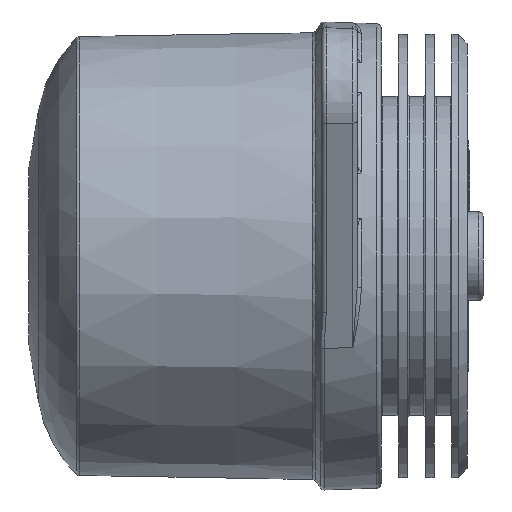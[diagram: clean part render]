
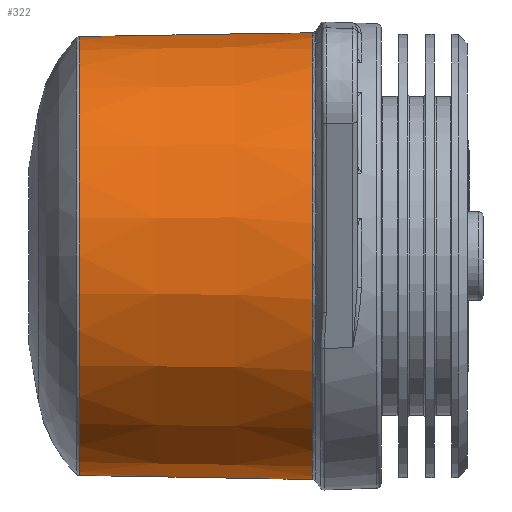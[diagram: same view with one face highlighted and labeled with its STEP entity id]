
A CAD part, front view. The second image highlights one B-rep face of the part: STEP entity #322.
In plain terms, the highlighted conical face has half-angle 1 degrees and reference radius 25 mm.
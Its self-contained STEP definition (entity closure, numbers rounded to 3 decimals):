
#300=CONICAL_SURFACE('',#2669,25.,1.);
#322=ADVANCED_FACE('',(#840,#841),#300,.T.);
#747=B_SPLINE_CURVE_WITH_KNOTS('',3,(#3972,#3973,#3974,#3975,#3976,#3977,
#3978,#3979,#3980,#3981,#3982,#3983,#3984,#3985,#3986,#3987,#3988,#3989,
#3990,#3991,#3992,#3993,#3994,#3995,#3996,#3997,#3998,#3999,#4000,#4001,
#4002,#4003,#4004,#4005,#4006,#4007,#4008,#4009,#4010,#4011,#4012,#4013,
#4014,#4015,#4016,#4017,#4018,#4019,#4020,#4021,#4022,#4023,#4024,#4025,
#4026,#4027,#4028,#4029,#4030,#4031,#4032,#4033,#4034,#4035,#4036,#4037,
#4038,#4039,#4040,#4041,#4042,#4043,#4044,#4045,#4046,#4047,#4048,#4049,
#4050,#4051,#4052,#4053,#4054,#4055,#4056,#4057,#4058),.UNSPECIFIED.,.F.,
 .F.,(4,2,2,2,2,2,2,2,2,1,1,2,2,2,2,2,2,2,2,2,2,2,2,2,2,2,2,2,1,2,2,2,2,
2,2,2,2,2,2,2,2,2,2,2,4),(0.,0.062,0.094,0.109,
0.117,0.125,0.187,0.219,
0.234,0.242,0.246,0.248,
0.25,0.258,0.262,0.266,
0.273,0.277,0.281,0.297,
0.305,0.309,0.311,0.312,
0.375,0.437,0.469,0.484,
0.492,0.496,0.5,0.562,
0.594,0.609,0.617,0.625,
0.687,0.719,0.734,0.75,
0.812,0.844,0.859,0.875,
1.),.UNSPECIFIED.);
#748=B_SPLINE_CURVE_WITH_KNOTS('',3,(#4061,#4062,#4063,#4064,#4065,#4066),
 .UNSPECIFIED.,.F.,.F.,(4,2,4),(0.,0.5,1.),.UNSPECIFIED.);
#749=B_SPLINE_CURVE_WITH_KNOTS('',3,(#4070,#4071,#4072,#4073,#4074,#4075),
 .UNSPECIFIED.,.F.,.F.,(4,2,4),(0.,0.5,1.),.UNSPECIFIED.);
#840=FACE_BOUND('',#944,.T.);
#841=FACE_BOUND('',#945,.T.);
#944=EDGE_LOOP('',(#1243));
#945=EDGE_LOOP('',(#1244,#1245,#1246,#1247));
#1243=ORIENTED_EDGE('',*,*,#2185,.T.);
#1244=ORIENTED_EDGE('',*,*,#2186,.T.);
#1245=ORIENTED_EDGE('',*,*,#2187,.T.);
#1246=ORIENTED_EDGE('',*,*,#2188,.T.);
#1247=ORIENTED_EDGE('',*,*,#2189,.T.);
#1951=VERTEX_POINT('',#3971);
#1952=VERTEX_POINT('',#4059);
#1953=VERTEX_POINT('',#4060);
#1954=VERTEX_POINT('',#4067);
#1955=VERTEX_POINT('',#4069);
#2185=EDGE_CURVE('',#1951,#1951,#2502,.T.);
#2186=EDGE_CURVE('',#1952,#1953,#747,.T.);
#2187=EDGE_CURVE('',#1953,#1954,#748,.T.);
#2188=EDGE_CURVE('',#1954,#1955,#2503,.T.);
#2189=EDGE_CURVE('',#1955,#1952,#749,.T.);
#2502=CIRCLE('',#2667,24.741);
#2503=CIRCLE('',#2668,25.2);
#2667=AXIS2_PLACEMENT_3D('',#3970,#3013,#3014);
#2668=AXIS2_PLACEMENT_3D('',#4068,#3015,#3016);
#2669=AXIS2_PLACEMENT_3D('',#4076,#3017,#3018);
#3013=DIRECTION('',(1.,0.,0.));
#3014=DIRECTION('',(0.,0.,-1.));
#3015=DIRECTION('',(-1.,0.,0.));
#3016=DIRECTION('',(0.,0.,-1.));
#3017=DIRECTION('',(1.,0.,0.));
#3018=DIRECTION('',(0.,0.,-1.));
#3970=CARTESIAN_POINT('',(-10.56,-8.708,-44.883));
#3971=CARTESIAN_POINT('',(-10.56,-8.708,-69.624));
#3972=CARTESIAN_POINT('',(15.476,10.133,-28.155));
#3973=CARTESIAN_POINT('',(15.155,9.193,-27.105));
#3974=CARTESIAN_POINT('',(14.666,8.111,-26.077));
#3975=CARTESIAN_POINT('',(13.681,6.257,-24.638));
#3976=CARTESIAN_POINT('',(13.311,5.601,-24.175));
#3977=CARTESIAN_POINT('',(12.693,4.56,-23.518));
#3978=CARTESIAN_POINT('',(12.476,4.203,-23.304));
#3979=CARTESIAN_POINT('',(12.135,3.654,-22.995));
#3980=CARTESIAN_POINT('',(12.019,3.469,-22.894));
#3981=CARTESIAN_POINT('',(11.782,3.093,-22.695));
#3982=CARTESIAN_POINT('',(11.675,2.927,-22.609));
#3983=CARTESIAN_POINT('',(10.422,0.983,-21.642));
#3984=CARTESIAN_POINT('',(9.376,-0.598,-21.1));
#3985=CARTESIAN_POINT('',(7.909,-2.621,-20.56));
#3986=CARTESIAN_POINT('',(7.437,-3.238,-20.426));
#3987=CARTESIAN_POINT('',(6.754,-4.071,-20.272));
#3988=CARTESIAN_POINT('',(6.531,-4.333,-20.228));
#3989=CARTESIAN_POINT('',(6.202,-4.703,-20.172));
#3990=CARTESIAN_POINT('',(6.04,-4.881,-20.146));
#3991=CARTESIAN_POINT('',(5.852,-5.08,-20.12));
#3992=CARTESIAN_POINT('',(5.773,-5.162,-20.11));
#3993=CARTESIAN_POINT('',(5.72,-5.217,-20.103));
#3994=CARTESIAN_POINT('',(5.714,-5.223,-20.102));
#3995=CARTESIAN_POINT('',(5.479,-5.462,-20.073));
#3996=CARTESIAN_POINT('',(5.303,-5.624,-20.056));
#3997=CARTESIAN_POINT('',(5.054,-5.824,-20.037));
#3998=CARTESIAN_POINT('',(4.974,-5.883,-20.031));
#3999=CARTESIAN_POINT('',(4.819,-5.988,-20.022));
#4000=CARTESIAN_POINT('',(4.775,-6.016,-20.02));
#4001=CARTESIAN_POINT('',(4.467,-6.177,-20.008));
#4002=CARTESIAN_POINT('',(4.261,-6.231,-20.007));
#4003=CARTESIAN_POINT('',(3.951,-6.233,-20.012));
#4004=CARTESIAN_POINT('',(3.848,-6.22,-20.015));
#4005=CARTESIAN_POINT('',(3.642,-6.168,-20.024));
#4006=CARTESIAN_POINT('',(3.493,-6.105,-20.033));
#4007=CARTESIAN_POINT('',(3.203,-5.958,-20.054));
#4008=CARTESIAN_POINT('',(2.933,-5.752,-20.081));
#4009=CARTESIAN_POINT('',(2.471,-5.312,-20.147));
#4010=CARTESIAN_POINT('',(2.308,-5.144,-20.173));
#4011=CARTESIAN_POINT('',(2.049,-4.86,-20.221));
#4012=CARTESIAN_POINT('',(1.96,-4.759,-20.238));
#4013=CARTESIAN_POINT('',(1.823,-4.601,-20.266));
#4014=CARTESIAN_POINT('',(1.777,-4.547,-20.276));
#4015=CARTESIAN_POINT('',(1.683,-4.436,-20.297));
#4016=CARTESIAN_POINT('',(1.616,-4.355,-20.312));
#4017=CARTESIAN_POINT('',(0.695,-3.242,-20.528));
#4018=CARTESIAN_POINT('',(-0.317,-1.855,-20.869));
#4019=CARTESIAN_POINT('',(-2.435,1.211,-22.004));
#4020=CARTESIAN_POINT('',(-3.355,2.629,-22.7));
#4021=CARTESIAN_POINT('',(-4.527,4.57,-23.869));
#4022=CARTESIAN_POINT('',(-4.883,5.187,-24.28));
#4023=CARTESIAN_POINT('',(-5.365,6.065,-24.921));
#4024=CARTESIAN_POINT('',(-5.517,6.351,-25.139));
#4025=CARTESIAN_POINT('',(-5.732,6.767,-25.471));
#4026=CARTESIAN_POINT('',(-5.836,6.972,-25.638));
#4027=CARTESIAN_POINT('',(-5.936,7.173,-25.807));
#4028=CARTESIAN_POINT('',(-6.001,7.306,-25.92));
#4029=CARTESIAN_POINT('',(-6.022,7.349,-25.957));
#4030=CARTESIAN_POINT('',(-6.745,8.856,-27.264));
#4031=CARTESIAN_POINT('',(-7.175,10.059,-28.584));
#4032=CARTESIAN_POINT('',(-7.443,11.573,-30.594));
#4033=CARTESIAN_POINT('',(-7.469,12.03,-31.269));
#4034=CARTESIAN_POINT('',(-7.415,12.648,-32.278));
#4035=CARTESIAN_POINT('',(-7.381,12.844,-32.614));
#4036=CARTESIAN_POINT('',(-7.307,13.121,-33.116));
#4037=CARTESIAN_POINT('',(-7.278,13.211,-33.283));
#4038=CARTESIAN_POINT('',(-7.213,13.385,-33.617));
#4039=CARTESIAN_POINT('',(-7.186,13.451,-33.745));
#4040=CARTESIAN_POINT('',(-6.74,14.358,-35.573));
#4041=CARTESIAN_POINT('',(-6.034,14.881,-37.053));
#4042=CARTESIAN_POINT('',(-4.51,15.427,-38.945));
#4043=CARTESIAN_POINT('',(-3.924,15.569,-39.522));
#4044=CARTESIAN_POINT('',(-2.93,15.742,-40.3));
#4045=CARTESIAN_POINT('',(-2.579,15.792,-40.545));
#4046=CARTESIAN_POINT('',(-1.838,15.882,-41.005));
#4047=CARTESIAN_POINT('',(-1.423,15.924,-41.233));
#4048=CARTESIAN_POINT('',(0.493,16.089,-42.17));
#4049=CARTESIAN_POINT('',(2.154,16.148,-42.575));
#4050=CARTESIAN_POINT('',(4.791,16.201,-42.65));
#4051=CARTESIAN_POINT('',(5.649,16.211,-42.586));
#4052=CARTESIAN_POINT('',(6.904,16.21,-42.354));
#4053=CARTESIAN_POINT('',(7.317,16.207,-42.255));
#4054=CARTESIAN_POINT('',(8.132,16.194,-42.011));
#4055=CARTESIAN_POINT('',(8.506,16.186,-41.878));
#4056=CARTESIAN_POINT('',(12.328,16.047,-40.273));
#4057=CARTESIAN_POINT('',(14.515,15.7,-37.751));
#4058=CARTESIAN_POINT('',(15.492,14.249,-34.5));
#4059=CARTESIAN_POINT('',(15.476,10.133,-28.155));
#4060=CARTESIAN_POINT('',(15.492,14.249,-34.5));
#4061=CARTESIAN_POINT('',(15.492,14.249,-34.5));
#4062=CARTESIAN_POINT('',(15.577,14.261,-34.523));
#4063=CARTESIAN_POINT('',(15.652,14.304,-34.616));
#4064=CARTESIAN_POINT('',(15.71,14.371,-34.766));
#4065=CARTESIAN_POINT('',(15.725,14.41,-34.853));
#4066=CARTESIAN_POINT('',(15.725,14.453,-34.954));
#4067=CARTESIAN_POINT('',(15.725,14.453,-34.954));
#4068=CARTESIAN_POINT('',(15.725,-8.708,-44.883));
#4069=CARTESIAN_POINT('',(15.725,9.555,-27.52));
#4070=CARTESIAN_POINT('',(15.725,9.555,-27.52));
#4071=CARTESIAN_POINT('',(15.725,9.67,-27.641));
#4072=CARTESIAN_POINT('',(15.724,9.761,-27.738));
#4073=CARTESIAN_POINT('',(15.642,10.046,-28.052));
#4074=CARTESIAN_POINT('',(15.573,10.121,-28.14));
#4075=CARTESIAN_POINT('',(15.476,10.133,-28.155));
#4076=CARTESIAN_POINT('',(4.284,-8.708,-44.883));
